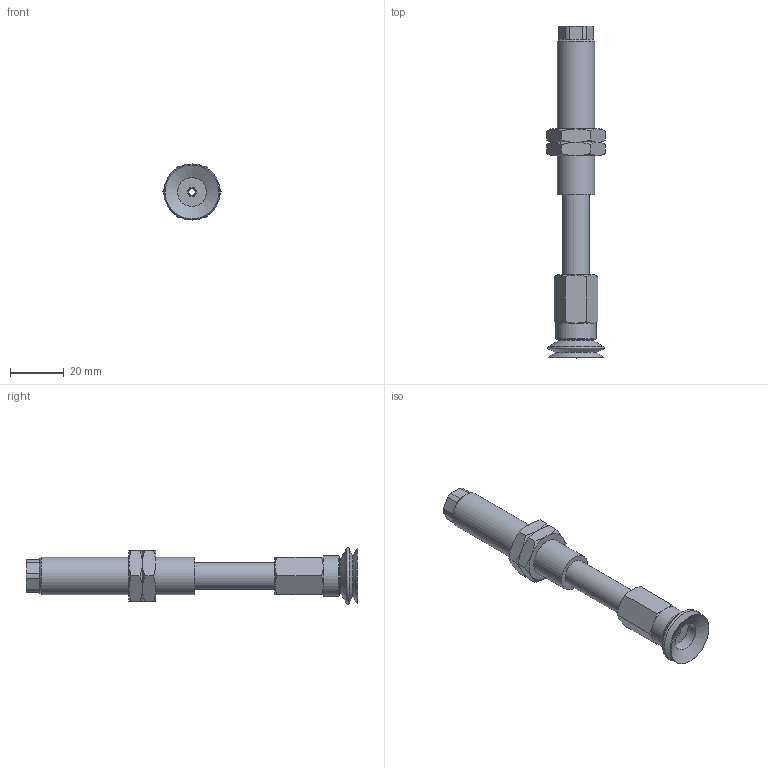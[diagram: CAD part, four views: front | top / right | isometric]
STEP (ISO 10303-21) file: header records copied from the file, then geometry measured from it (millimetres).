
FILE_DESCRIPTION(('STEP AP203'),'1');
FILE_NAME('.stp','2025-08-27T07:41:34',(' '),(' '),'Spatial InterOp 3D',' ',' ');
FILE_SCHEMA(('CONFIG_CONTROL_DESIGN'));
Length unit declared in the file: millimetre
Products named in the file (7): BNABPJTS-20-30-※; ADAPTER; NAPBTS-20-30--M; Adapter-20-NAPJ; NUT-NAPJ-20-30-s; NAPJTS-20-30-FBODY; BPJG-20-※
Assembly tree (7 placements, depth 2):
  BNABPJTS-20-30-※
    ADAPTER
    NAPBTS-20-30--M
    Adapter-20-NAPJ
    NUT-NAPJ-20-30-s  x2
    NAPJTS-20-30-FBODY
    BPJG-20-※
Bounding box: 21.94 x 124 x 21 mm (x, y, z)
Volume: 17755.5 mm3; surface area: 13890.6 mm2
Topology: 7 solids, 7 shells, 127 faces, 272 edges, 165 vertices
Faces by surface type: plane 50, cone 49, cylinder 21, torus 7
Full cylindrical faces by diameter (mm): 2.5 x1, 3 x2, 4.134 x2, 4.6 x1, 5 x1, 10 x2, 10.8 x1, 11 x1, 13.188 x2, 14 x1, 15 x1
Entity records: 3188 total; most frequent: CARTESIAN_POINT 762, DIRECTION 442, ORIENTED_EDGE 368, AXIS2_PLACEMENT_3D 194, EDGE_CURVE 184, EDGE_LOOP 154, VERTEX_POINT 130, FACE_OUTER_BOUND 125
